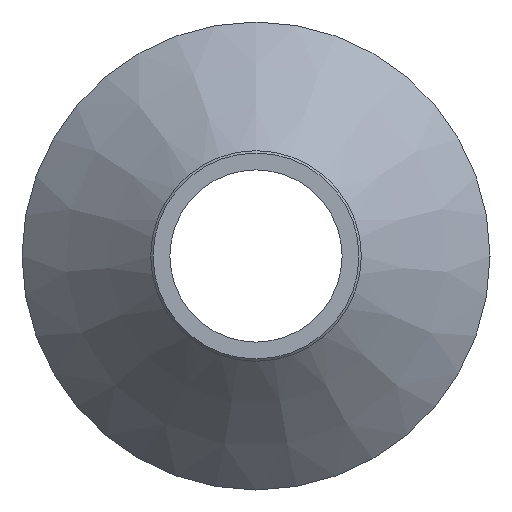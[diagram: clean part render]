
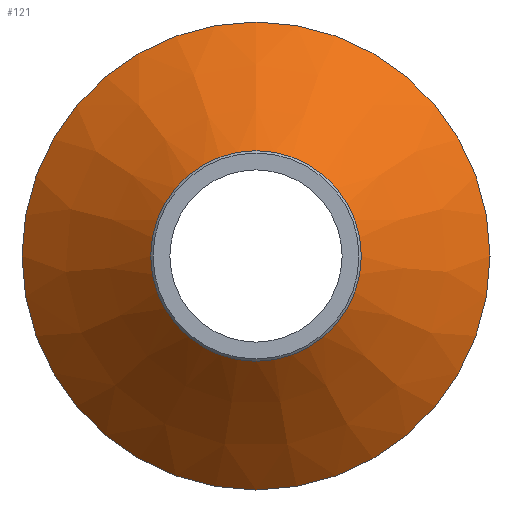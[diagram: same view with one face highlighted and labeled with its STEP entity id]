
A CAD part, left-side view. The second image highlights one B-rep face of the part: STEP entity #121.
In plain terms, the highlighted conical face has half-angle 46.061 degrees and reference radius 100 mm.
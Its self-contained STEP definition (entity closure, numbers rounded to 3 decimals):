
#22=CONICAL_SURFACE('',#146,100.,0.804);
#28=ORIENTED_EDGE('',*,*,#48,.F.);
#29=ORIENTED_EDGE('',*,*,#47,.T.);
#47=EDGE_CURVE('',#57,#57,#67,.T.);
#48=EDGE_CURVE('',#58,#58,#68,.T.);
#57=VERTEX_POINT('',#210);
#58=VERTEX_POINT('',#213);
#67=CIRCLE('',#145,100.);
#68=CIRCLE('',#147,45.);
#78=EDGE_LOOP('',(#28));
#79=EDGE_LOOP('',(#29));
#98=FACE_BOUND('',#78,.T.);
#99=FACE_BOUND('',#79,.T.);
#121=ADVANCED_FACE('',(#98,#99),#22,.T.);
#145=AXIS2_PLACEMENT_3D('',#209,#169,#170);
#146=AXIS2_PLACEMENT_3D('',#211,#171,#172);
#147=AXIS2_PLACEMENT_3D('',#212,#173,#174);
#169=DIRECTION('',(-1.,0.,0.));
#170=DIRECTION('',(0.,0.,1.));
#171=DIRECTION('',(1.,0.,0.));
#172=DIRECTION('',(0.,0.,-1.));
#173=DIRECTION('',(-1.,0.,0.));
#174=DIRECTION('',(0.,0.,1.));
#209=CARTESIAN_POINT('',(26.5,0.,0.));
#210=CARTESIAN_POINT('',(26.5,0.,100.));
#211=CARTESIAN_POINT('',(26.5,0.,0.));
#212=CARTESIAN_POINT('',(-26.5,0.,0.));
#213=CARTESIAN_POINT('',(-26.5,0.,45.));
